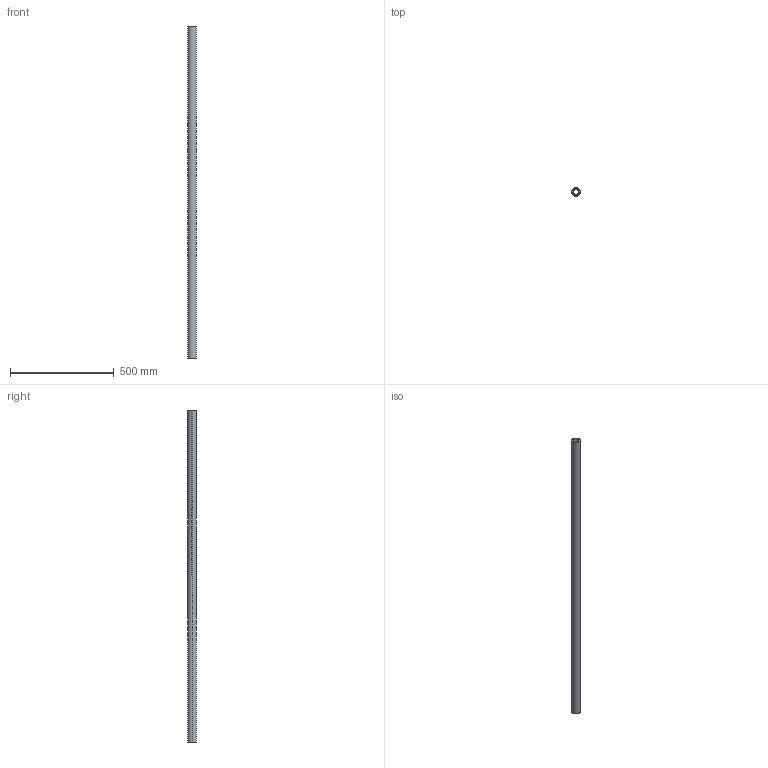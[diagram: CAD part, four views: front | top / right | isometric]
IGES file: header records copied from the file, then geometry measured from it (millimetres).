
Start section: SolidWorks IGES file using analytic representation for surfaces
Global section: file name: C:\Users\IanO\Desktop\L1771_v2\L1771.40_v2\L1771.40_v2_20230705_IGES\L1771.40-1600.igs; native system: SolidWorks 2019; preprocessor: SolidWorks 2019; author: IanO; date: 230705.160716; units: millimetre
Bounding box: 40 x 40 x 1600 mm (x, y, z)
Surface area: 343087.1 mm2 (no closed solid volume)
Topology: 0 solids, 0 shells, 6 faces, 272 edges, 272 vertices
Faces by surface type: revolution 4, bspline 2
